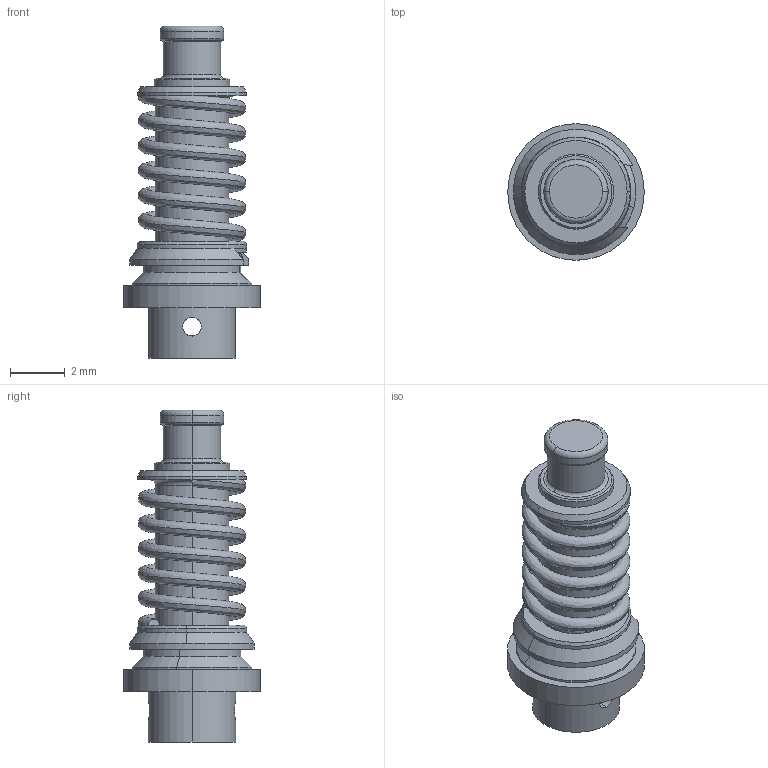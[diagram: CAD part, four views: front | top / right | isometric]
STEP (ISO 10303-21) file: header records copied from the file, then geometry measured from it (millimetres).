
FILE_DESCRIPTION (( 'STEP AP214' ), '1' );
FILE_NAME ('3221-40022.STEP', '2015-05-06T13:59:39', ( 'image' ), ( '' ), 'SwSTEP 2.0', 'SolidWorks 2014', '' );
FILE_SCHEMA (( 'AUTOMOTIVE_DESIGN' ));
Length unit declared in the file: inch
Products named in the file (1): 3221-40022
Bounding box: 4.98 x 4.98 x 12.1 mm (x, y, z)
Volume: 94.8 mm3; surface area: 293.2 mm2
Topology: 1 solids, 1 shells, 77 faces, 176 edges, 107 vertices
Faces by surface type: cylinder 32, plane 20, cone 14, torus 9, bspline 2
Entity records: 4441 total; most frequent: CARTESIAN_POINT 1696, DIRECTION 397, ORIENTED_EDGE 352, EDGE_CURVE 176, AXIS2_PLACEMENT_3D 167, VERTEX_POINT 107, CIRCLE 91, EDGE_LOOP 89
